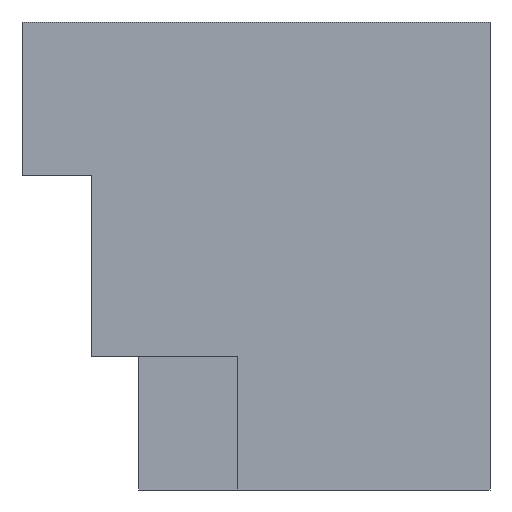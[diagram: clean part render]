
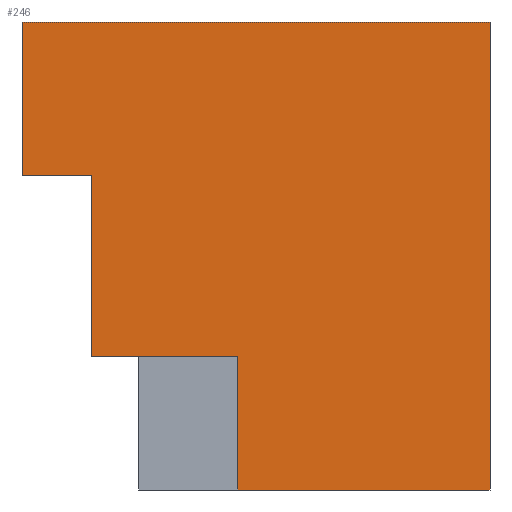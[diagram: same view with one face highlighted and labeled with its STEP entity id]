
A CAD part, front view. The second image highlights one B-rep face of the part: STEP entity #246.
In plain terms, the highlighted planar face has unit normal (0, -1, 0).
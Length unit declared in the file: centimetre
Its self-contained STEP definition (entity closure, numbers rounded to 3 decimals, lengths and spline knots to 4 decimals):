
#5 = CARTESIAN_POINT ( 'NONE',  ( 0., 0., 1000. ) ) ;
#14 = EDGE_CURVE ( 'NONE', #457, #307, #360, .T. ) ;
#15 = CARTESIAN_POINT ( 'NONE',  ( 461.1478, 0., 284.5405 ) ) ;
#52 = VERTEX_POINT ( 'NONE', #527 ) ;
#58 = DIRECTION ( 'NONE',  ( -1., 0., 0. ) ) ;
#60 = VERTEX_POINT ( 'NONE', #319 ) ;
#65 = ORIENTED_EDGE ( 'NONE', *, *, #533, .F. ) ;
#68 = VERTEX_POINT ( 'NONE', #202 ) ;
#86 = ORIENTED_EDGE ( 'NONE', *, *, #528, .F. ) ;
#93 = CARTESIAN_POINT ( 'NONE',  ( 461.1478, 0., 284.5405 ) ) ;
#106 = CARTESIAN_POINT ( 'NONE',  ( 461.1478, 0., 0. ) ) ;
#128 = ORIENTED_EDGE ( 'NONE', *, *, #229, .F. ) ;
#136 = ORIENTED_EDGE ( 'NONE', *, *, #411, .F. ) ;
#138 = PLANE ( 'NONE',  #523 ) ;
#144 = ORIENTED_EDGE ( 'NONE', *, *, #266, .F. ) ;
#157 = CARTESIAN_POINT ( 'NONE',  ( 148.3404, 0., 672.4631 ) ) ;
#164 = EDGE_CURVE ( 'NONE', #52, #304, #443, .T. ) ;
#170 = LINE ( 'NONE', #15, #302 ) ;
#185 = ORIENTED_EDGE ( 'NONE', *, *, #164, .T. ) ;
#186 = VECTOR ( 'NONE', #211, 100. ) ;
#196 = DIRECTION ( 'NONE',  ( -1., 0., 0. ) ) ;
#202 = CARTESIAN_POINT ( 'NONE',  ( 1000., 0., 1000. ) ) ;
#209 = DIRECTION ( 'NONE',  ( 0., 1., 0. ) ) ;
#211 = DIRECTION ( 'NONE',  ( 1., 0., 0. ) ) ;
#214 = CARTESIAN_POINT ( 'NONE',  ( 0., 0., 0. ) ) ;
#218 = LINE ( 'NONE', #5, #186 ) ;
#224 = CARTESIAN_POINT ( 'NONE',  ( 148.3404, 0., 672.4631 ) ) ;
#225 = LINE ( 'NONE', #359, #227 ) ;
#227 = VECTOR ( 'NONE', #196, 100. ) ;
#228 = LINE ( 'NONE', #429, #326 ) ;
#229 = EDGE_CURVE ( 'NONE', #337, #307, #170, .T. ) ;
#242 = EDGE_CURVE ( 'NONE', #517, #60, #420, .T. ) ;
#246 = ADVANCED_FACE ( 'NONE', ( #490 ), #138, .F. ) ;
#258 = VECTOR ( 'NONE', #423, 100. ) ;
#266 = EDGE_CURVE ( 'NONE', #52, #68, #218, .T. ) ;
#283 = DIRECTION ( 'NONE',  ( 0., 0., -1. ) ) ;
#288 = CARTESIAN_POINT ( 'NONE',  ( 0., 0., 1000. ) ) ;
#299 = CARTESIAN_POINT ( 'NONE',  ( 0., 0., 672.4631 ) ) ;
#302 = VECTOR ( 'NONE', #58, 100. ) ;
#304 = VERTEX_POINT ( 'NONE', #299 ) ;
#305 = CARTESIAN_POINT ( 'NONE',  ( 0., 0., 1000. ) ) ;
#307 = VERTEX_POINT ( 'NONE', #338 ) ;
#319 = CARTESIAN_POINT ( 'NONE',  ( 1000., 0., 0. ) ) ;
#326 = VECTOR ( 'NONE', #522, 100. ) ;
#330 = ORIENTED_EDGE ( 'NONE', *, *, #14, .T. ) ;
#336 = DIRECTION ( 'NONE',  ( 0., 0., 1. ) ) ;
#337 = VERTEX_POINT ( 'NONE', #93 ) ;
#338 = CARTESIAN_POINT ( 'NONE',  ( 148.3404, 0., 284.5405 ) ) ;
#359 = CARTESIAN_POINT ( 'NONE',  ( 148.3404, 0., 672.4631 ) ) ;
#360 = LINE ( 'NONE', #157, #398 ) ;
#389 = ORIENTED_EDGE ( 'NONE', *, *, #242, .T. ) ;
#395 = LINE ( 'NONE', #106, #473 ) ;
#398 = VECTOR ( 'NONE', #283, 100. ) ;
#410 = DIRECTION ( 'NONE',  ( 0., 0., -1. ) ) ;
#411 = EDGE_CURVE ( 'NONE', #68, #60, #228, .T. ) ;
#420 = LINE ( 'NONE', #214, #258 ) ;
#423 = DIRECTION ( 'NONE',  ( 1., 0., 0. ) ) ;
#429 = CARTESIAN_POINT ( 'NONE',  ( 1000., 0., 1000. ) ) ;
#443 = LINE ( 'NONE', #288, #494 ) ;
#457 = VERTEX_POINT ( 'NONE', #224 ) ;
#459 = EDGE_LOOP ( 'NONE', ( #65, #330, #128, #86, #389, #136, #144, #185 ) ) ;
#466 = CARTESIAN_POINT ( 'NONE',  ( 461.1478, 0., 0. ) ) ;
#473 = VECTOR ( 'NONE', #524, 100. ) ;
#490 = FACE_OUTER_BOUND ( 'NONE', #459, .T. ) ;
#494 = VECTOR ( 'NONE', #410, 100. ) ;
#517 = VERTEX_POINT ( 'NONE', #466 ) ;
#522 = DIRECTION ( 'NONE',  ( 0., 0., -1. ) ) ;
#523 = AXIS2_PLACEMENT_3D ( 'NONE', #305, #209, #336 ) ;
#524 = DIRECTION ( 'NONE',  ( 0., 0., 1. ) ) ;
#527 = CARTESIAN_POINT ( 'NONE',  ( 0., 0., 1000. ) ) ;
#528 = EDGE_CURVE ( 'NONE', #517, #337, #395, .T. ) ;
#533 = EDGE_CURVE ( 'NONE', #457, #304, #225, .T. ) ;
